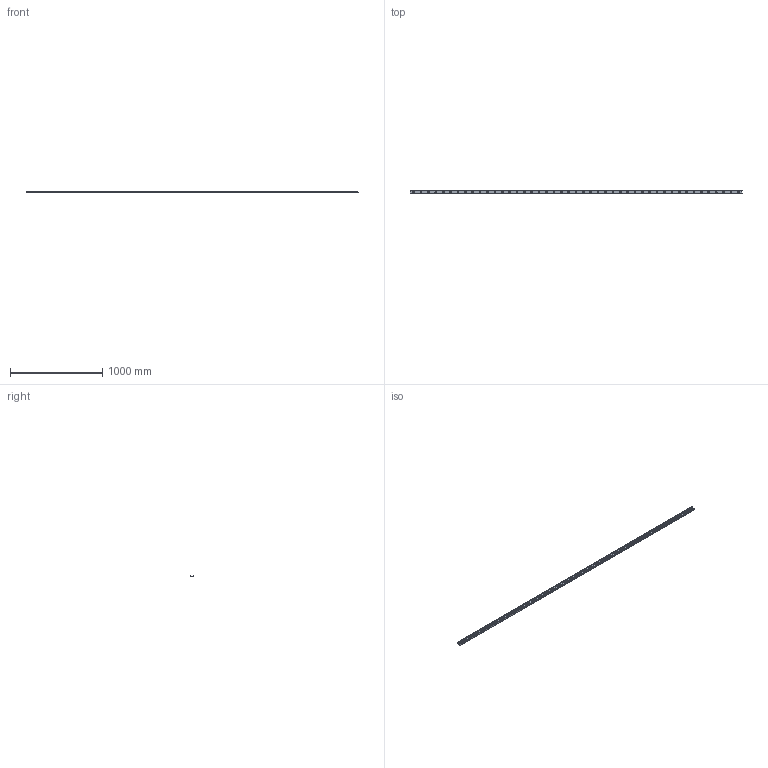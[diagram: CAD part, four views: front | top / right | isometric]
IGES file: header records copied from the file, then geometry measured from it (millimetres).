
Start section: SolidWorks IGES file using analytic representation for surfaces
Global section: file name: C:\Users\IanO\Desktop\43\L1943.ULC43_v2_20180121_IGES\L1943.ULC43-3600.igs; native system: SolidWorks 2017; preprocessor: SolidWorks 2017; author: IanO; date: 190121.085340; units: millimetre
Bounding box: 3600 x 43 x 21 mm (x, y, z)
Surface area: 564420.1 mm2 (no closed solid volume)
Topology: 0 solids, 0 shells, 251 faces, 6774 edges, 6774 vertices
Faces by surface type: revolution 193, bspline 58
